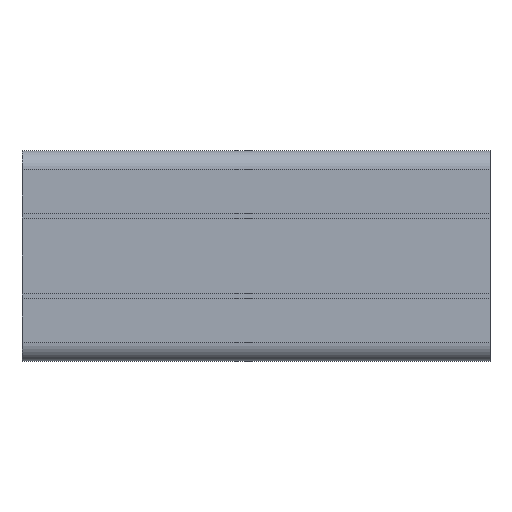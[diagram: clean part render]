
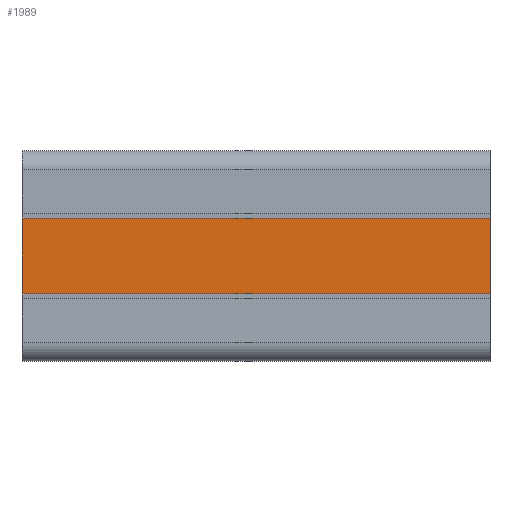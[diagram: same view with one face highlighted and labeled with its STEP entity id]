
A CAD part, front view. The second image highlights one B-rep face of the part: STEP entity #1989.
In plain terms, the highlighted planar face has unit normal (0, -1, 0).
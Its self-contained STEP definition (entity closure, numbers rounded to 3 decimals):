
#1241=EDGE_CURVE('',#2173,#2263,#3227,.T.);
#1989=ADVANCED_FACE('',(#4041),#4042,.T.);
#2051=VERTEX_POINT('',#4109);
#2075=EDGE_CURVE('',#2263,#2121,#4135,.T.);
#2121=VERTEX_POINT('',#4184);
#2173=VERTEX_POINT('',#4241);
#2263=VERTEX_POINT('',#4341);
#2439=EDGE_CURVE('',#2173,#2051,#4532,.T.);
#2869=EDGE_CURVE('',#2121,#2051,#4994,.T.);
#3227=LINE('',#5462,#5463);
#4041=FACE_OUTER_BOUND('',#6625,.T.);
#4042=PLANE('',#6626);
#4109=CARTESIAN_POINT('',(50.0,-81.004,4.204));
#4135=LINE('',#6766,#6767);
#4184=CARTESIAN_POINT('',(50.0,-81.004,-4.204));
#4241=CARTESIAN_POINT('',(0.0,-81.004,4.204));
#4341=CARTESIAN_POINT('',(0.0,-81.004,-4.204));
#4532=LINE('',#7351,#7352);
#4994=LINE('',#8026,#8027);
#5462=CARTESIAN_POINT('',(0.0,-81.004,4.204));
#5463=VECTOR('',#8379,1.0);
#6625=EDGE_LOOP('',(#9404,#9405,#9406,#9407));
#6626=AXIS2_PLACEMENT_3D('',#9408,#9409,#9410);
#6766=CARTESIAN_POINT('',(0.0,-81.004,-4.204));
#6767=VECTOR('',#9490,1.0);
#7351=CARTESIAN_POINT('',(0.0,-81.004,4.204));
#7352=VECTOR('',#9853,1.0);
#8026=CARTESIAN_POINT('',(50.0,-81.004,4.204));
#8027=VECTOR('',#10227,1.0);
#8379=DIRECTION('',(0.0,0.0,-1.0));
#9404=ORIENTED_EDGE('',*,*,#2869,.T.);
#9405=ORIENTED_EDGE('',*,*,#2439,.F.);
#9406=ORIENTED_EDGE('',*,*,#1241,.T.);
#9407=ORIENTED_EDGE('',*,*,#2075,.T.);
#9408=CARTESIAN_POINT('',(0.0,-81.004,-4.204));
#9409=DIRECTION('',(0.0,-1.0,0.0));
#9410=DIRECTION('',(0.0,0.0,-1.0));
#9490=DIRECTION('',(1.0,0.0,0.0));
#9853=DIRECTION('',(1.0,0.0,0.0));
#10227=DIRECTION('',(0.0,0.0,1.0));
